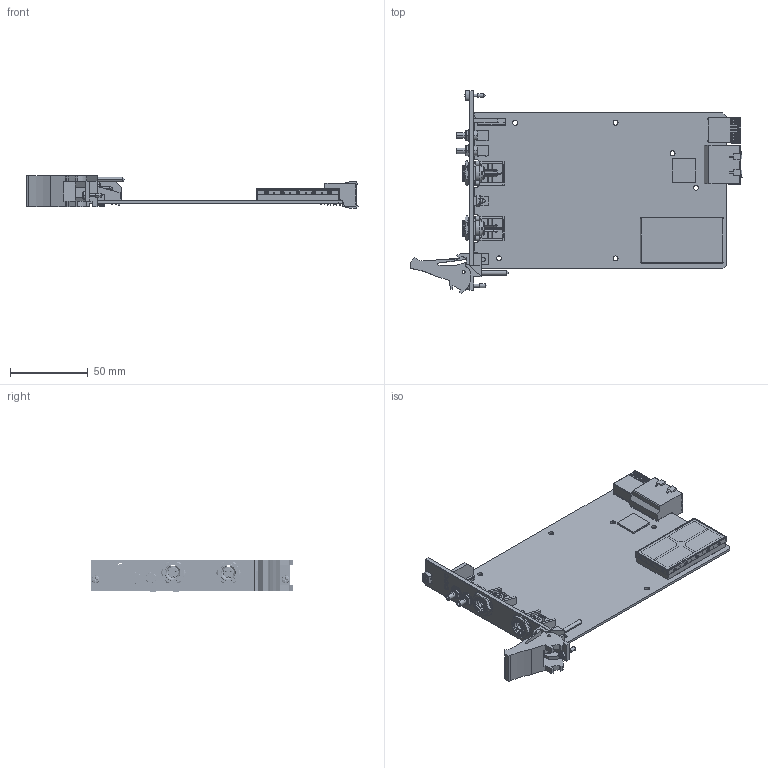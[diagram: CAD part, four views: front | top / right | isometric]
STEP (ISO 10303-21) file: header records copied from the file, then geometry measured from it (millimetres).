
FILE_DESCRIPTION((''),'2;1');
FILE_NAME('CU_PXIE-4463_MINI','2015-03-17T',('dkendric'),(''),'PRO/ENGINEER BY PARAMETRIC TECHNOLOGY CORPORATION, 2014000','PRO/ENGINEER BY PARAMETRIC TECHNOLOGY CORPORATION, 2014000','');
FILE_SCHEMA(('CONFIG_CONTROL_DESIGN'));
Products named in the file (1): CU_PXIE-4463_MINI
Bounding box: 213.82 x 130.5 x 20.78 mm (x, y, z)
Volume: 52273.9 mm3; surface area: 66183.6 mm2
Topology: 2 solids, 27 shells, 5042 faces, 14036 edges, 8869 vertices
Faces by surface type: plane 3233, cylinder 765, sphere 656, bspline 246, cone 106, torus 36
Entity records: 167183 total; most frequent: CARTESIAN_POINT 40262, ORIENTED_EDGE 26410, DIRECTION 25516, EDGE_CURVE 13292, VECTOR 8922, LINE 8922, VERTEX_POINT 8867, AXIS2_PLACEMENT_3D 8297
